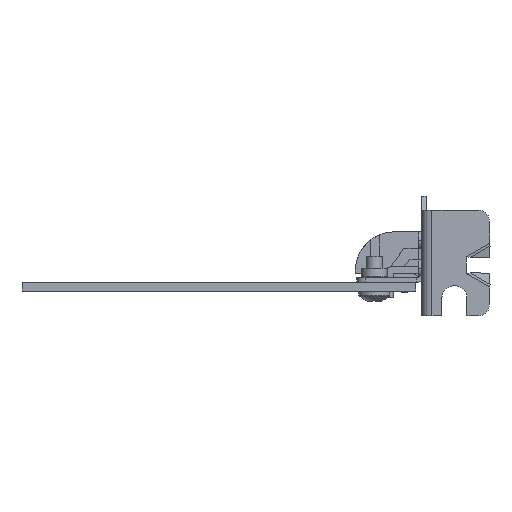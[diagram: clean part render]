
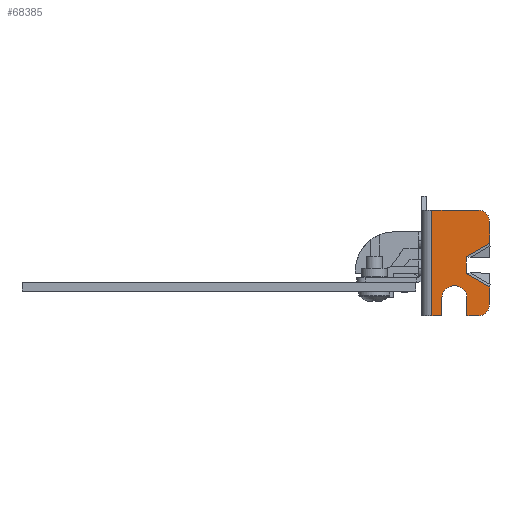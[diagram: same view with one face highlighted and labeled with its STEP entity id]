
A CAD part, front view. The second image highlights one B-rep face of the part: STEP entity #68385.
In plain terms, the highlighted planar face has unit normal (0, -1, 0).
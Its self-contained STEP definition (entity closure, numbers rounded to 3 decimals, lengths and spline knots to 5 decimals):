
#1024=DIRECTION('',(0.,0.,-1.));
#1025=VECTOR('',#1024,0.75);
#1026=CARTESIAN_POINT('',(0.115,-3.986,0.575));
#1027=LINE('',#1026,#1025);
#1028=DIRECTION('',(-0.866,0.,0.5));
#1029=VECTOR('',#1028,0.19053);
#1030=CARTESIAN_POINT('',(0.525,-3.986,0.02974));
#1031=LINE('',#1030,#1029);
#1032=DIRECTION('',(0.,0.,-1.));
#1033=VECTOR('',#1032,0.12474);
#1034=CARTESIAN_POINT('',(0.525,-3.986,0.02974));
#1035=LINE('',#1034,#1033);
#1036=DIRECTION('',(0.,0.,1.));
#1037=VECTOR('',#1036,0.125);
#1038=CARTESIAN_POINT('',(0.364,-3.986,-0.175));
#1039=LINE('',#1038,#1037);
#1040=CARTESIAN_POINT('',(0.275,-3.986,-0.05));
#1041=DIRECTION('',(0.,1.,0.));
#1042=DIRECTION('',(-1.,0.,0.));
#1043=AXIS2_PLACEMENT_3D('',#1040,#1041,#1042);
#1045=DIRECTION('',(0.,0.,1.));
#1046=VECTOR('',#1045,0.125);
#1047=CARTESIAN_POINT('',(0.186,-3.986,-0.175));
#1048=LINE('',#1047,#1046);
#1049=DIRECTION('',(-1.,0.,0.));
#1050=VECTOR('',#1049,0.33);
#1051=CARTESIAN_POINT('',(0.445,-3.986,0.575));
#1052=LINE('',#1051,#1050);
#1053=DIRECTION('',(0.,0.,-1.));
#1054=VECTOR('',#1053,0.15474);
#1055=CARTESIAN_POINT('',(0.525,-3.986,0.495));
#1056=LINE('',#1055,#1054);
#1057=DIRECTION('',(-0.866,0.,-0.5));
#1058=VECTOR('',#1057,0.19053);
#1059=CARTESIAN_POINT('',(0.525,-3.986,0.34026));
#1060=LINE('',#1059,#1058);
#1061=DIRECTION('',(0.,0.,-1.));
#1062=VECTOR('',#1061,0.12);
#1063=CARTESIAN_POINT('',(0.36,-3.986,0.245));
#1064=LINE('',#1063,#1062);
#1077=CARTESIAN_POINT('',(0.36,-3.986,0.125));
#1166=CARTESIAN_POINT('',(0.36,-3.986,0.245));
#1189=CARTESIAN_POINT('',(0.445,-3.986,0.495));
#1190=DIRECTION('',(0.,-1.,0.));
#1191=DIRECTION('',(1.,0.,0.));
#1192=AXIS2_PLACEMENT_3D('',#1189,#1190,#1191);
#54380=DIRECTION('',(-1.,0.,0.));
#54381=VECTOR('',#54380,0.071);
#54382=CARTESIAN_POINT('',(0.186,-3.986,-0.175));
#54383=LINE('',#54382,#54381);
#54400=DIRECTION('',(-1.,0.,0.));
#54401=VECTOR('',#54400,0.081);
#54402=CARTESIAN_POINT('',(0.445,-3.986,-0.175));
#54403=LINE('',#54402,#54401);
#54421=CARTESIAN_POINT('',(0.445,-3.986,-0.095));
#54422=DIRECTION('',(0.,-1.,0.));
#54423=DIRECTION('',(0.,0.,-1.));
#54424=AXIS2_PLACEMENT_3D('',#54421,#54422,#54423);
#55010=CARTESIAN_POINT('',(0.115,-3.986,-0.175));
#55012=VERTEX_POINT('',#55010);
#55015=CARTESIAN_POINT('',(0.115,-3.986,0.575));
#55017=VERTEX_POINT('',#55015);
#55067=CARTESIAN_POINT('',(0.525,-3.986,0.495));
#55069=VERTEX_POINT('',#55067);
#55070=CARTESIAN_POINT('',(0.445,-3.986,0.575));
#55071=VERTEX_POINT('',#55070);
#55074=CARTESIAN_POINT('',(0.525,-3.986,-0.095));
#55076=VERTEX_POINT('',#55074);
#55080=CARTESIAN_POINT('',(0.445,-3.986,-0.175));
#55081=VERTEX_POINT('',#55080);
#55090=CARTESIAN_POINT('',(0.364,-3.986,-0.175));
#55091=CARTESIAN_POINT('',(0.364,-3.986,-0.05));
#55092=VERTEX_POINT('',#55090);
#55093=VERTEX_POINT('',#55091);
#55094=CARTESIAN_POINT('',(0.186,-3.986,-0.05));
#55095=VERTEX_POINT('',#55094);
#55096=CARTESIAN_POINT('',(0.186,-3.986,-0.175));
#55097=VERTEX_POINT('',#55096);
#55108=CARTESIAN_POINT('',(0.525,-3.986,0.34026));
#55109=VERTEX_POINT('',#55108);
#55119=VERTEX_POINT('',#1166);
#55122=CARTESIAN_POINT('',(0.525,-3.986,0.02974));
#55123=VERTEX_POINT('',#55122);
#55132=VERTEX_POINT('',#1077);
#68351=CARTESIAN_POINT('',(0.525,-3.986,0.675));
#68352=DIRECTION('',(0.,1.,0.));
#68353=DIRECTION('',(-1.,0.,0.));
#68354=AXIS2_PLACEMENT_3D('',#68351,#68352,#68353);
#68355=PLANE('',#68354);
#68357=ORIENTED_EDGE('',*,*,#68356,.F.);
#68359=ORIENTED_EDGE('',*,*,#68358,.T.);
#68361=ORIENTED_EDGE('',*,*,#68360,.F.);
#68363=ORIENTED_EDGE('',*,*,#68362,.T.);
#68365=ORIENTED_EDGE('',*,*,#68364,.T.);
#68367=ORIENTED_EDGE('',*,*,#68366,.F.);
#68369=ORIENTED_EDGE('',*,*,#68368,.F.);
#68371=ORIENTED_EDGE('',*,*,#68370,.T.);
#68372=ORIENTED_EDGE('',*,*,#68343,.F.);
#68374=ORIENTED_EDGE('',*,*,#68373,.F.);
#68376=ORIENTED_EDGE('',*,*,#68375,.F.);
#68378=ORIENTED_EDGE('',*,*,#68377,.T.);
#68380=ORIENTED_EDGE('',*,*,#68379,.T.);
#68382=ORIENTED_EDGE('',*,*,#68381,.T.);
#68383=EDGE_LOOP('',(#68357,#68359,#68361,#68363,#68365,#68367,#68369,#68371,
#68372,#68374,#68376,#68378,#68380,#68382));
#68384=FACE_OUTER_BOUND('',#68383,.F.);
#68385=ADVANCED_FACE('',(#68384),#68355,.F.);
#1044=CIRCLE('',#1043,0.089);
#1193=CIRCLE('',#1192,0.08);
#54425=CIRCLE('',#54424,0.08);
#68343=EDGE_CURVE('',#55017,#55012,#1027,.T.);
#68356=EDGE_CURVE('',#55123,#55132,#1031,.T.);
#68358=EDGE_CURVE('',#55123,#55076,#1035,.T.);
#68360=EDGE_CURVE('',#55081,#55076,#54425,.T.);
#68362=EDGE_CURVE('',#55081,#55092,#54403,.T.);
#68364=EDGE_CURVE('',#55092,#55093,#1039,.T.);
#68366=EDGE_CURVE('',#55095,#55093,#1044,.T.);
#68368=EDGE_CURVE('',#55097,#55095,#1048,.T.);
#68370=EDGE_CURVE('',#55097,#55012,#54383,.T.);
#68373=EDGE_CURVE('',#55071,#55017,#1052,.T.);
#68375=EDGE_CURVE('',#55069,#55071,#1193,.T.);
#68377=EDGE_CURVE('',#55069,#55109,#1056,.T.);
#68379=EDGE_CURVE('',#55109,#55119,#1060,.T.);
#68381=EDGE_CURVE('',#55119,#55132,#1064,.T.);
